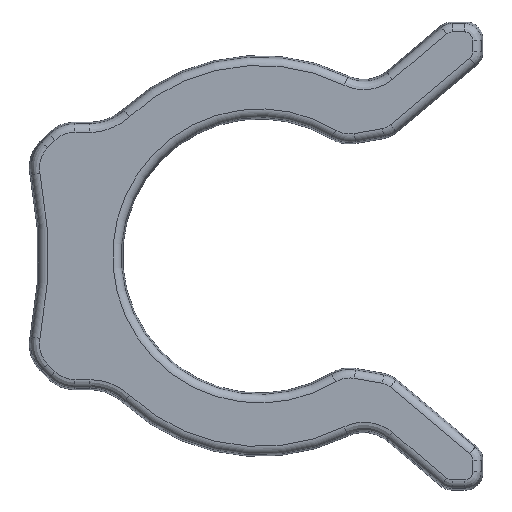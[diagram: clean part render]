
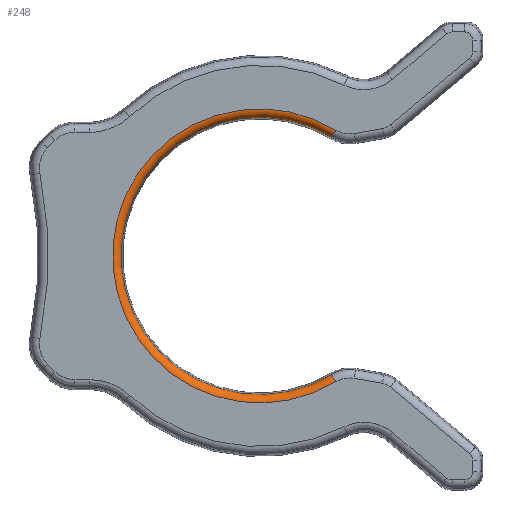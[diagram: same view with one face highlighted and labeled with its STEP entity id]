
A CAD part, top view. The second image highlights one B-rep face of the part: STEP entity #248.
In plain terms, the highlighted toroidal (fillet/blend) face has major radius 4.399 mm and minor radius 0.25 mm.
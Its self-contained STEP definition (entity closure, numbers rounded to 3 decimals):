
#137 = ORIENTED_EDGE ( 'NONE', *, *, #830, .T. ) ;
#150 = ORIENTED_EDGE ( 'NONE', *, *, #834, .F. ) ;
#151 = ORIENTED_EDGE ( 'NONE', *, *, #732, .F. ) ;
#155 = ORIENTED_EDGE ( 'NONE', *, *, #785, .F. ) ;
#174 = EDGE_LOOP ( 'NONE', ( #137, #155, #150, #151 ) ) ;
#248 = ADVANCED_FACE ( 'NONE', ( #2349 ), #2343, .T. ) ;
#268 = DIRECTION ( 'NONE',  ( -1., 0., 0. ) ) ;
#294 = CARTESIAN_POINT ( 'NONE',  ( 0., 0., 0.55 ) ) ;
#300 = DIRECTION ( 'NONE',  ( 0., 0., -1. ) ) ;
#502 = CIRCLE ( 'NONE', #645, 0.25 ) ;
#508 = CIRCLE ( 'NONE', #661, 4.15 ) ;
#521 = CIRCLE ( 'NONE', #649, 0.25 ) ;
#556 = CIRCLE ( 'NONE', #667, 4.399 ) ;
#645 = AXIS2_PLACEMENT_3D ( 'NONE', #1270, #1271, #1272 ) ;
#649 = AXIS2_PLACEMENT_3D ( 'NONE', #1258, #1259, #1260 ) ;
#661 = AXIS2_PLACEMENT_3D ( 'NONE', #2057, #2058, #2059 ) ;
#667 = AXIS2_PLACEMENT_3D ( 'NONE', #1066, #1067, #1068 ) ;
#732 = EDGE_CURVE ( 'NONE', #1674, #1670, #508, .T. ) ;
#785 = EDGE_CURVE ( 'NONE', #1612, #1610, #556, .T. ) ;
#830 = EDGE_CURVE ( 'NONE', #1674, #1610, #521, .T. ) ;
#834 = EDGE_CURVE ( 'NONE', #1670, #1612, #502, .T. ) ;
#1066 = CARTESIAN_POINT ( 'NONE',  ( 0., 0., 0.8 ) ) ;
#1067 = DIRECTION ( 'NONE',  ( 0., 0., -1. ) ) ;
#1068 = DIRECTION ( 'NONE',  ( -1., 0., 0. ) ) ;
#1258 = CARTESIAN_POINT ( 'NONE',  ( 2.276, 3.765, 0.55 ) ) ;
#1259 = DIRECTION ( 'NONE',  ( -0.856, 0.517, 0. ) ) ;
#1260 = DIRECTION ( 'NONE',  ( -0.517, -0.856, 0. ) ) ;
#1270 = CARTESIAN_POINT ( 'NONE',  ( 2.276, -3.765, 0.55 ) ) ;
#1271 = DIRECTION ( 'NONE',  ( 0.856, 0.517, 0. ) ) ;
#1272 = DIRECTION ( 'NONE',  ( -0.517, 0.856, 0. ) ) ;
#1366 = CARTESIAN_POINT ( 'NONE',  ( 2.276, 3.765, 0.8 ) ) ;
#1432 = CARTESIAN_POINT ( 'NONE',  ( 2.276, -3.765, 0.8 ) ) ;
#1484 = CARTESIAN_POINT ( 'NONE',  ( 2.147, -3.551, 0.572 ) ) ;
#1488 = CARTESIAN_POINT ( 'NONE',  ( 2.147, 3.551, 0.572 ) ) ;
#1610 = VERTEX_POINT ( 'NONE', #1366 ) ;
#1612 = VERTEX_POINT ( 'NONE', #1432 ) ;
#1670 = VERTEX_POINT ( 'NONE', #1484 ) ;
#1674 = VERTEX_POINT ( 'NONE', #1488 ) ;
#2057 = CARTESIAN_POINT ( 'NONE',  ( 0., 0., 0.572 ) ) ;
#2058 = DIRECTION ( 'NONE',  ( 0., 0., 1. ) ) ;
#2059 = DIRECTION ( 'NONE',  ( -1., 0., 0. ) ) ;
#2126 = AXIS2_PLACEMENT_3D ( 'NONE', #294, #300, #268 ) ;
#2343 = TOROIDAL_SURFACE ( 'NONE', #2126, 4.399, 0.25 ) ;
#2349 = FACE_OUTER_BOUND ( 'NONE', #174, .T. ) ;
